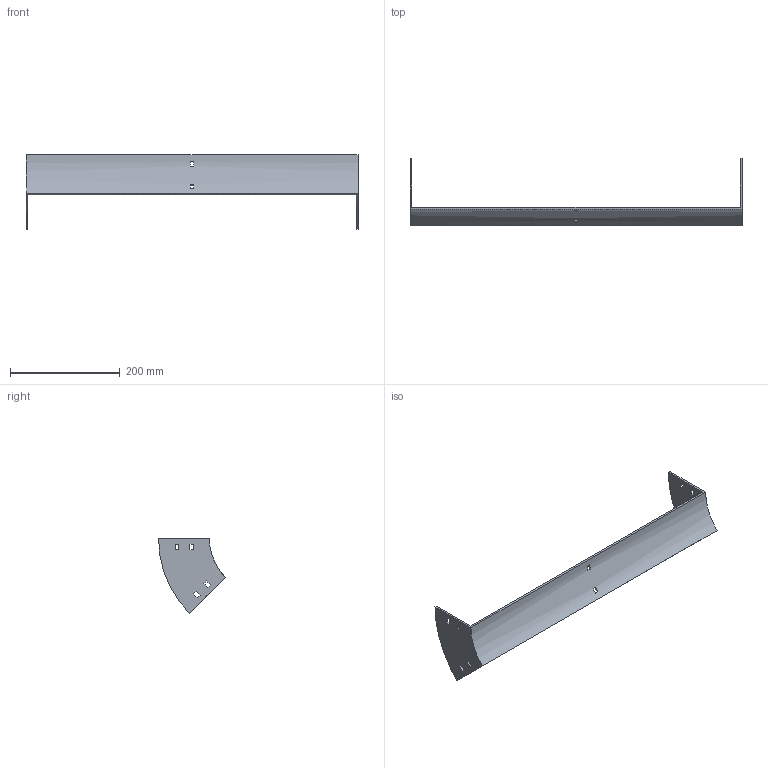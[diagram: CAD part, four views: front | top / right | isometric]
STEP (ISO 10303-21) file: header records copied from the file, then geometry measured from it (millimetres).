
FILE_DESCRIPTION (( 'STEP AP214' ), '1' );
FILE_NAME ('34B1I600.step', '2025-02-21T09:30:22', ( '' ), ( '' ), 'SwSTEP 2.0', 'SolidWorks 2023', '' );
FILE_SCHEMA (( 'AUTOMOTIVE_DESIGN' ));
Length unit declared in the file: millimetre
Products named in the file (1): 34B1I600
Bounding box: 604 x 121.79 x 136.12 mm (x, y, z)
Volume: 238980.5 mm3; surface area: 144255 mm2
Topology: 1 solids, 1 shells, 50 faces, 144 edges, 96 vertices
Faces by surface type: plane 46, cylinder 4
Entity records: 1687 total; most frequent: CARTESIAN_POINT 291, ORIENTED_EDGE 288, DIRECTION 262, EDGE_CURVE 144, VECTOR 128, LINE 128, VERTEX_POINT 96, EDGE_LOOP 70
